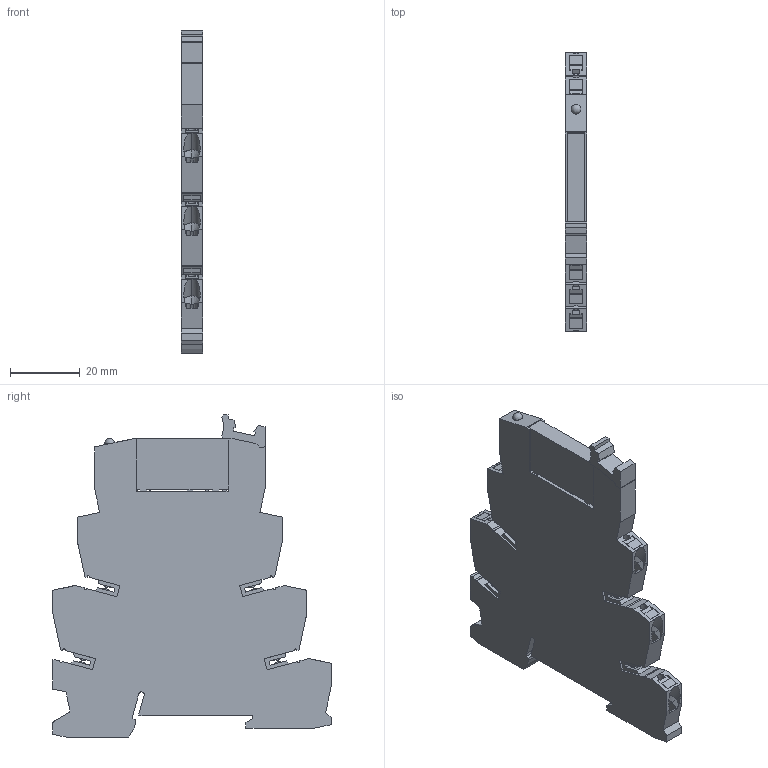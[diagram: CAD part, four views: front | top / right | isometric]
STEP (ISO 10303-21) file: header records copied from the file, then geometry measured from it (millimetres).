
FILE_DESCRIPTION(('TFLEX Exchange Step'),'2;1');
FILE_NAME('60101007_РПМ-1-24D-1AP_G.stp', '2023-10-03T15:56:08+03:00',('apanin'),('Unknown organisation'),'TFLEX Exchange 2023.0','T-FLEX CAD','Unknown authorisation');
FILE_SCHEMA( ('AUTOMOTIVE_DESIGN { 1 0 10303 214 1 1 1 1 }') );
Length unit declared in the file: millimetre
Products named in the file (1): Тело_1:1
Bounding box: 6.1 x 80 x 92.6 mm (x, y, z)
Volume: 29794.3 mm3; surface area: 14994.5 mm2
Topology: 1 solids, 1 shells, 667 faces, 1941 edges, 1298 vertices
Faces by surface type: plane 429, cylinder 227, cone 10, sphere 1
Entity records: 22308 total; most frequent: CARTESIAN_POINT 4994, ORIENTED_EDGE 3878, DIRECTION 3268, EDGE_CURVE 1939, VERTEX_POINT 1298, AXIS2_PLACEMENT_3D 1091, VECTOR 1086, LINE 1086
